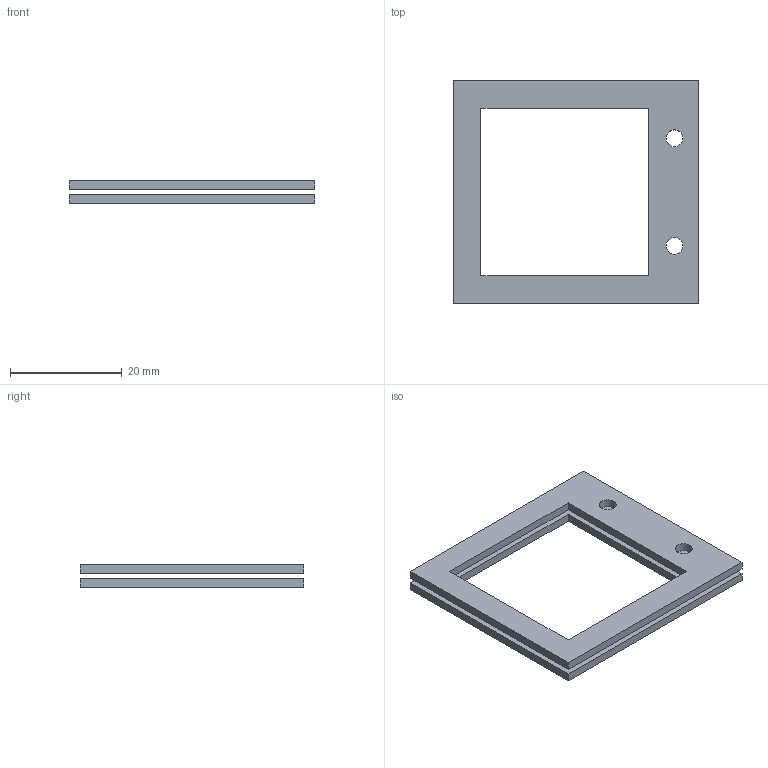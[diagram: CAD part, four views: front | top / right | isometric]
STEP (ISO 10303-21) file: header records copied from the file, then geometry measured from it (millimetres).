
FILE_DESCRIPTION(('HOOPS Exchange Step'),'2;1');
FILE_NAME('C:/Users/a0506362/Desktop/ansys/AOP/final_3d_step files/3D fixture.step','2025-02-18T14:53:47+05:30',('a0506362'),('Unknown organisation'),'HOOPS Exchange 2024.0','HOOPS Exchange','Unknown authorisation');
FILE_SCHEMA( ('AP242_MANAGED_MODEL_BASED_3D_ENGINEERING_MIM_LF {1 0 10303 442 1 1 4 }') );
Length unit declared in the file: millimetre
Products named in the file (1): 3D fixture_intermediate
Bounding box: 44 x 40 x 4 mm (x, y, z)
Volume: 2536.7 mm3; surface area: 4303.4 mm2
Topology: 2 solids, 2 shells, 24 faces, 60 edges, 40 vertices
Faces by surface type: plane 20, cylinder 4
Full cylindrical faces by diameter (mm): 3.03 x4
Entity records: 819 total; most frequent: CARTESIAN_POINT 126, DIRECTION 120, ORIENTED_EDGE 120, EDGE_CURVE 60, VECTOR 52, LINE 52, VERTEX_POINT 40, EDGE_LOOP 36
